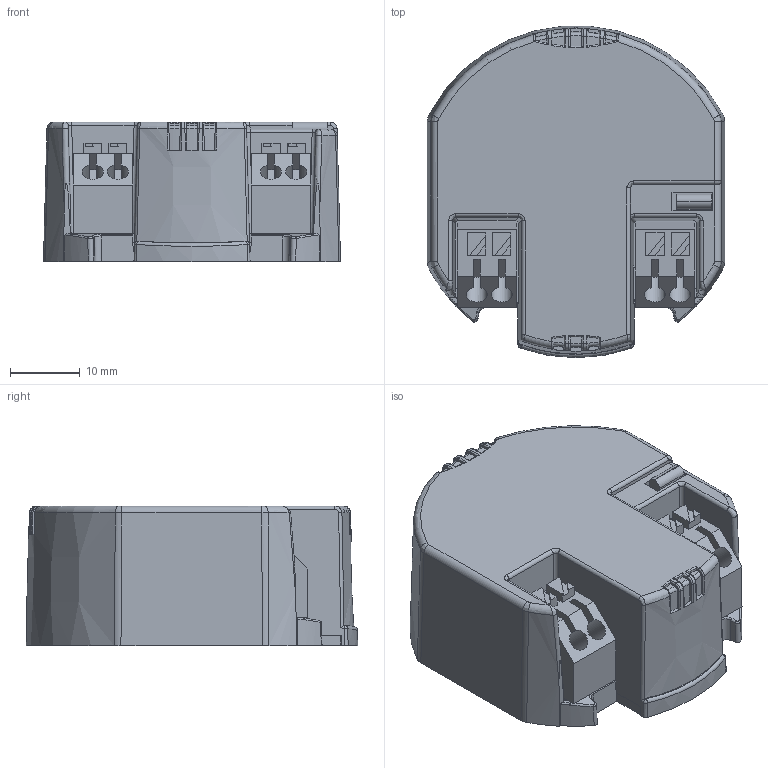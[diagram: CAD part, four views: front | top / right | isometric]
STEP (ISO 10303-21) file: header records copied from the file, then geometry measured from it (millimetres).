
FILE_DESCRIPTION((''),'2;1');
FILE_NAME('15013561Z_DMEC_47-5X42-5X20_22A','2019-10-21T14:50:32',('juergen.hrach'),(''),'CREO PARAMETRIC BY PTC INC, 2019164','CREO PARAMETRIC BY PTC INC, 2019164','');
FILE_SCHEMA(('CONFIG_CONTROL_DESIGN'));
Length unit declared in the file: millimetre
Products named in the file (1): 15013561Z_DMEC_47-5X42-5X20_22A
Bounding box: 42.5 x 47.42 x 20 mm (x, y, z)
Volume: 11296.6 mm3; surface area: 17629.4 mm2
Topology: 1 solids, 1 shells, 536 faces, 1696 edges, 1149 vertices
Faces by surface type: plane 322, cylinder 91, cone 49, torus 44, bspline 28, sphere 2
Entity records: 23477 total; most frequent: CARTESIAN_POINT 9199, ORIENTED_EDGE 3388, DIRECTION 2497, EDGE_CURVE 1694, VERTEX_POINT 1149, VECTOR 851, LINE 851, AXIS2_PLACEMENT_3D 823
